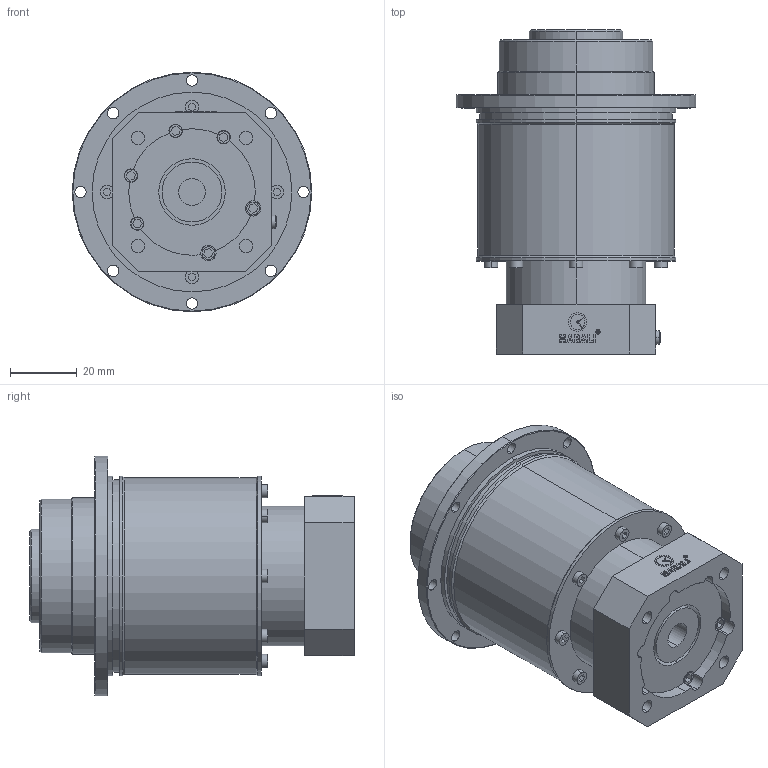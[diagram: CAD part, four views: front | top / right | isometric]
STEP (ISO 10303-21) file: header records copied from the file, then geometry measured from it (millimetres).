
FILE_DESCRIPTION (( 'STEP AP214' ), '1' );
FILE_NAME ('MAD-047-L2.step', '2020-06-26T06:27:54', ( '' ), ( '' ), 'SwSTEP 2.0', 'SolidWorks 2016', '' );
FILE_SCHEMA (( 'AUTOMOTIVE_DESIGN' ));
Length unit declared in the file: millimetre
Products named in the file (1): MAD-047-L2
Bounding box: 72 x 97.5 x 72 mm (x, y, z)
Volume: 215101.1 mm3; surface area: 31647 mm2
Topology: 11 solids, 11 shells, 490 faces, 1244 edges, 817 vertices
Faces by surface type: plane 290, cylinder 111, bspline 63, cone 26
Entity records: 20540 total; most frequent: CARTESIAN_POINT 3361, ORIENTED_EDGE 2468, DIRECTION 2218, EDGE_CURVE 1234, VECTOR 854, LINE 854, VERTEX_POINT 817, AXIS2_PLACEMENT_3D 682
